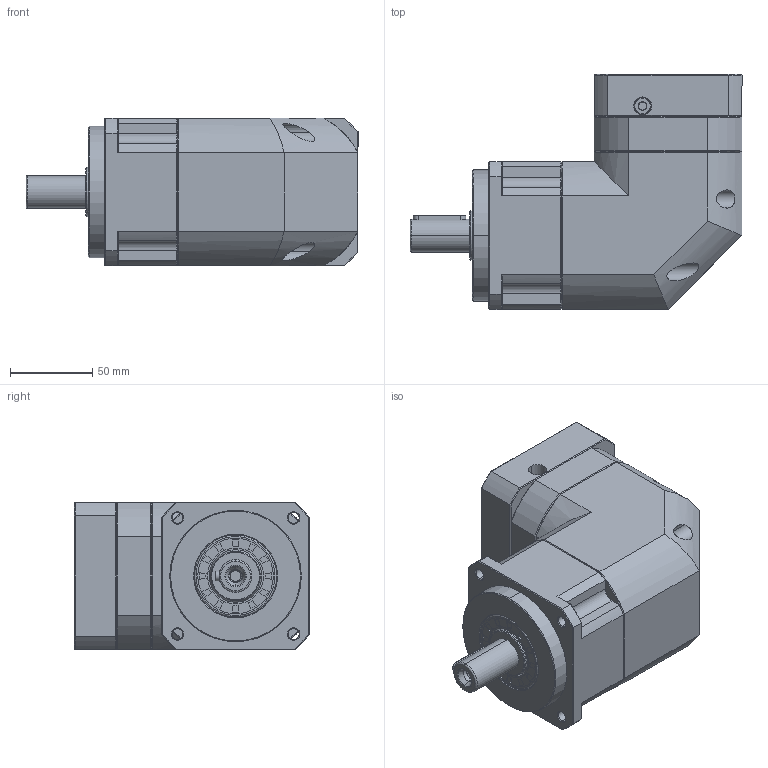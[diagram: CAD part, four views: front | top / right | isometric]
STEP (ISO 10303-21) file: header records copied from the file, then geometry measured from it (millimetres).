
FILE_DESCRIPTION (( 'STEP AP214' ), '1' );
FILE_NAME ('ZPBR090-D20-L1-P1-12.7-73-69.6X69.6-M6.step', '2024-06-07T18:28:36', ( 'Windows 蚚誧' ), ( 'Organization' ), 'SwSTEP 2.0', 'SolidWorks 2016', '' );
FILE_SCHEMA (( 'AUTOMOTIVE_DESIGN' ));
Length unit declared in the file: millimetre
Products named in the file (1): ZPBR090-D20-L1-P1-12.7-73-69.6X69.6-M6
Bounding box: 202 x 143 x 90 mm (x, y, z)
Surface area: 133612.7 mm2 (no closed solid volume)
Topology: 0 solids, 34 shells, 1821 faces, 4902 edges, 3159 vertices
Faces by surface type: plane 974, bspline 373, cone 240, cylinder 217, torus 17
Full cylindrical faces by diameter (mm): 6.72 x1
Entity records: 93107 total; most frequent: CARTESIAN_POINT 46593, ORIENTED_EDGE 9707, DIRECTION 7555, EDGE_CURVE 4897, LINE 3249, VECTOR 3249, VERTEX_POINT 3157, AXIS2_PLACEMENT_3D 2153
